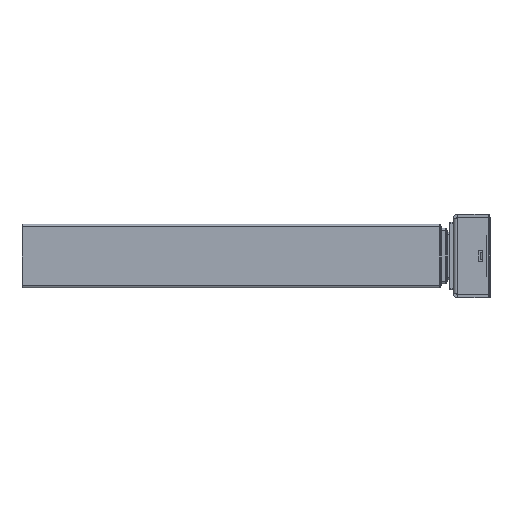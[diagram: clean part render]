
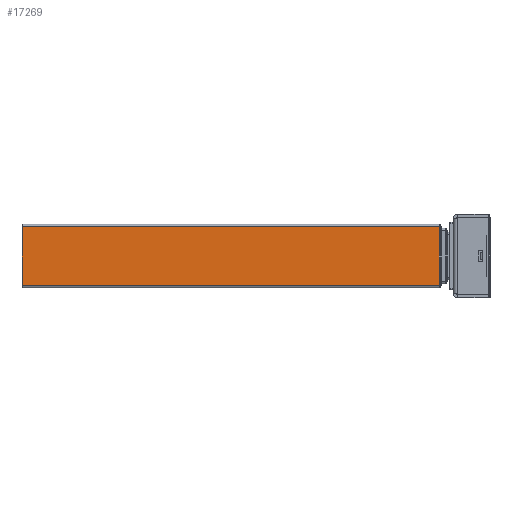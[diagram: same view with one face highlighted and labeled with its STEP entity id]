
A CAD part, left-side view. The second image highlights one B-rep face of the part: STEP entity #17269.
In plain terms, the highlighted planar face has unit normal (-1, 0, 0).
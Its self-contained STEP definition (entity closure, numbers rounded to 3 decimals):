
#413 = VECTOR ( 'NONE', #71803, 39.37 ) ;
#619 = CARTESIAN_POINT ( 'NONE',  ( -1.181, 0.531, -1.457 ) ) ;
#1862 = VECTOR ( 'NONE', #61697, 39.37 ) ;
#3805 = DIRECTION ( 'NONE',  ( 0., 0., -1. ) ) ;
#9155 = DIRECTION ( 'NONE',  ( 0., 1., 0. ) ) ;
#10132 = ORIENTED_EDGE ( 'NONE', *, *, #19426, .F. ) ;
#12449 = LINE ( 'NONE', #25155, #1862 ) ;
#13785 = ORIENTED_EDGE ( 'NONE', *, *, #48722, .T. ) ;
#16222 = CARTESIAN_POINT ( 'NONE',  ( -1.181, 21.24, 1.457 ) ) ;
#17269 = ADVANCED_FACE ( 'NONE', ( #32853 ), #20781, .F. ) ;
#19426 = EDGE_CURVE ( 'NONE', #32828, #63842, #12449, .T. ) ;
#20781 = PLANE ( 'NONE',  #23538 ) ;
#20854 = EDGE_CURVE ( 'NONE', #59082, #60830, #77412, .T. ) ;
#23538 = AXIS2_PLACEMENT_3D ( 'NONE', #26660, #63755, #26923 ) ;
#24114 = LINE ( 'NONE', #34351, #30937 ) ;
#25155 = CARTESIAN_POINT ( 'NONE',  ( -1.181, 0.531, 1.575 ) ) ;
#26660 = CARTESIAN_POINT ( 'NONE',  ( -1.181, 0.531, 1.575 ) ) ;
#26923 = DIRECTION ( 'NONE',  ( 0., 0., 1. ) ) ;
#27360 = ORIENTED_EDGE ( 'NONE', *, *, #20854, .T. ) ;
#30937 = VECTOR ( 'NONE', #9155, 39.37 ) ;
#32828 = VERTEX_POINT ( 'NONE', #51713 ) ;
#32853 = FACE_OUTER_BOUND ( 'NONE', #56041, .T. ) ;
#34351 = CARTESIAN_POINT ( 'NONE',  ( -1.181, 0.531, 1.457 ) ) ;
#48722 = EDGE_CURVE ( 'NONE', #60830, #63842, #65789, .T. ) ;
#51713 = CARTESIAN_POINT ( 'NONE',  ( -1.181, 0.531, 1.457 ) ) ;
#51896 = CARTESIAN_POINT ( 'NONE',  ( -1.181, 21.24, 1.575 ) ) ;
#53877 = CARTESIAN_POINT ( 'NONE',  ( -1.181, 0.531, -1.457 ) ) ;
#54200 = EDGE_CURVE ( 'NONE', #32828, #59082, #24114, .T. ) ;
#56041 = EDGE_LOOP ( 'NONE', ( #10132, #73420, #27360, #13785 ) ) ;
#59082 = VERTEX_POINT ( 'NONE', #16222 ) ;
#60830 = VERTEX_POINT ( 'NONE', #65355 ) ;
#61697 = DIRECTION ( 'NONE',  ( 0., 0., -1. ) ) ;
#63755 = DIRECTION ( 'NONE',  ( 1., 0., 0. ) ) ;
#63842 = VERTEX_POINT ( 'NONE', #619 ) ;
#65355 = CARTESIAN_POINT ( 'NONE',  ( -1.181, 21.24, -1.457 ) ) ;
#65789 = LINE ( 'NONE', #53877, #413 ) ;
#71693 = VECTOR ( 'NONE', #3805, 39.37 ) ;
#71803 = DIRECTION ( 'NONE',  ( 0., -1., 0. ) ) ;
#73420 = ORIENTED_EDGE ( 'NONE', *, *, #54200, .T. ) ;
#77412 = LINE ( 'NONE', #51896, #71693 ) ;
